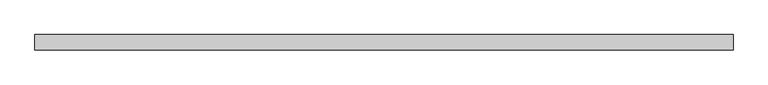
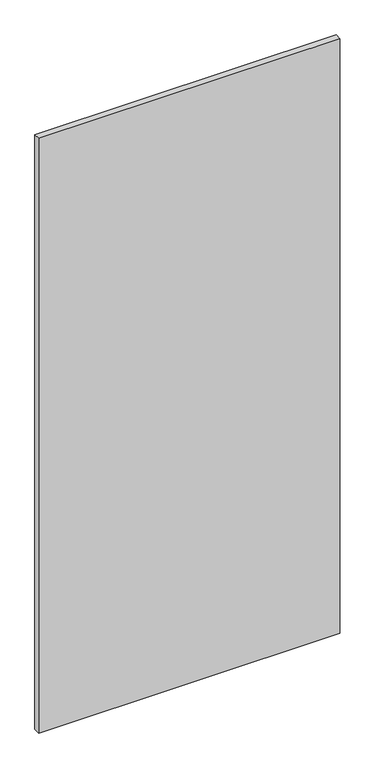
"""IFC4 building model written with IfcOpenShell, lengths in millimetres: plate geometry, システム パネル : ガラス."""

from ifc_helpers import new_model, si_unit, origin, origin_with_axes, place, context, project, spatial, polyline, outline, extrude, source, transform, mapped, element, save


def plate_1c8cb44b(model_context):
    return source(origin(), model_context, "Body", "SweptSolid", [
        extrude(outline(polyline([(575.0000001, -49.5), (-575.0000001, -49.5), (-575.0000001, -24.5), (575.0000001, -24.5), (575.0000001, -49.5)])), origin_with_axes(), (0.0, 0.0, 1.0), 2400.0),
    ])


if __name__ == "__main__":
    model = new_model("IFC4")
    model_context = context("Model", 3, world=origin())
    ifc_project = project(units=[si_unit("LENGTHUNIT", "METRE", prefix="MILLI")], contexts=[model_context])
    site = spatial("IfcSite", under=ifc_project)
    building = spatial("IfcBuilding", under=site)
    placement = place(None, origin())
    plate_shape = plate_1c8cb44b(model_context)
    element("IfcPlate", 1, ObjectType="システム パネル : ガラス", at=placement, inside=building, context=model_context, shape_type="MappedRepresentation", body=[
        mapped(plate_shape, transform((0.0, 0.0, 0.0), x_axis=(1.0, 0.0, 0.0), y_axis=(0.0, 1.0, 0.0), z_axis=(0.0, 0.0, 1.0))),
    ])
    save(model, "model.ifc")
